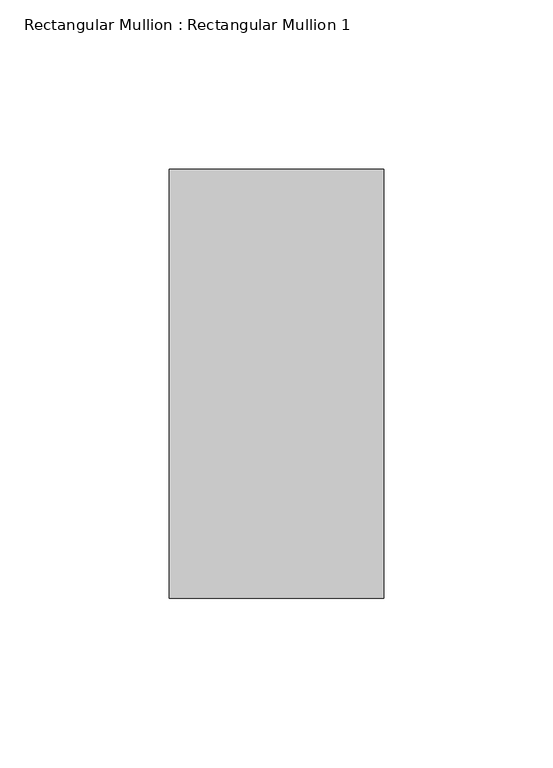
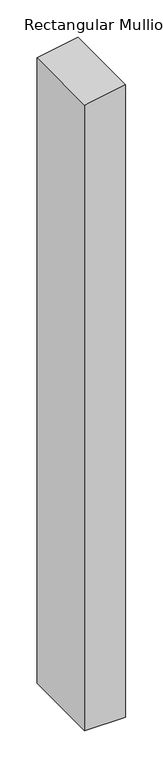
"""IFC4 building model written with IfcOpenShell, lengths in millimetres: member geometry, Rectangular Mullion : Rectangular Mullion 1."""

from ifc_helpers import new_model, si_unit, frame, origin, place, context, project, spatial, polyline, outline, extrude, source, transform, mapped, element, save


def rectangular_mullion_rectangular_mullion_1_ac3be7ce(model_context):
    return source(origin(), model_context, "Body", "SweptSolid", [
        extrude(outline(polyline([(0.0, 0.0), (-11.1967633, -63.5), (-1032.9180524, -63.5), (-1032.9180524, 0.0), (0.0, 0.0)])), frame((0.0, -63.5, 0.0), z_axis=(0.0, 1.0, 0.0), x_axis=(0.0, 0.0, 1.0)), (0.0, 0.0, 1.0), 127.0),
    ])


if __name__ == "__main__":
    model = new_model("IFC4")
    model_context = context("Model", 3, world=origin())
    ifc_project = project(units=[si_unit("LENGTHUNIT", "METRE", prefix="MILLI")], contexts=[model_context])
    site = spatial("IfcSite", under=ifc_project)
    building = spatial("IfcBuilding", under=site)
    placement = place(None, origin())
    rectangular_mullion_rectangular_mullion_1_shape = rectangular_mullion_rectangular_mullion_1_ac3be7ce(model_context)
    element("IfcMember", 1, ObjectType="Rectangular Mullion : Rectangular Mullion 1", at=placement, inside=building, context=model_context, shape_type="MappedRepresentation", body=[
        mapped(rectangular_mullion_rectangular_mullion_1_shape, transform((0.0, 0.0, 0.0), x_axis=(1.0, 0.0, 0.0), y_axis=(0.0, 1.0, 0.0), z_axis=(0.0, 0.0, 1.0))),
    ])
    save(model, "model.ifc")
